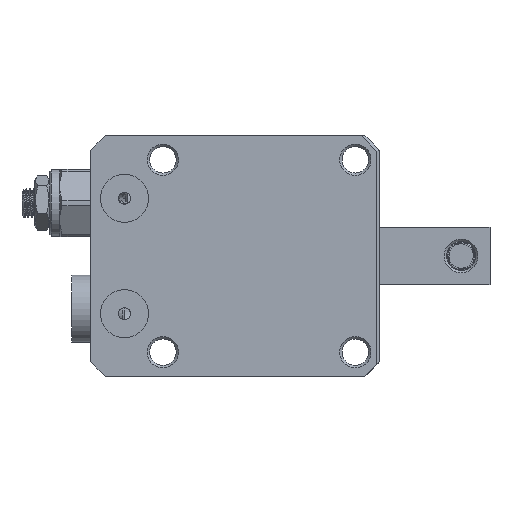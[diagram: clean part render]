
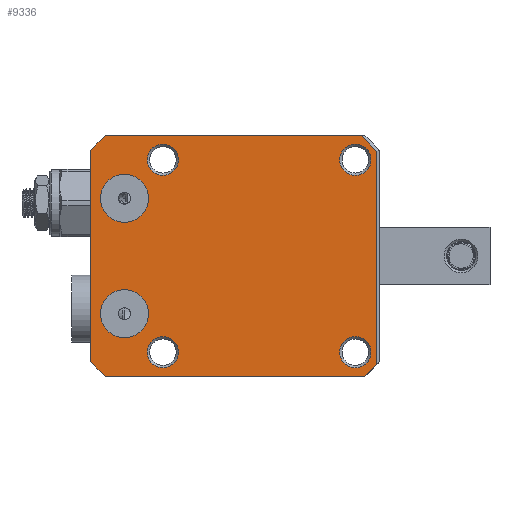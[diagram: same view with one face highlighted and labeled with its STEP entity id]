
A CAD part, front view. The second image highlights one B-rep face of the part: STEP entity #9336.
In plain terms, the highlighted planar face has unit normal (0, -1, 0).
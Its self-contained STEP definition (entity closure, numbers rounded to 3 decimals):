
#295=PLANE('',#10160);
#459=FACE_BOUND('',#1265,.T.);
#460=FACE_BOUND('',#1266,.T.);
#461=FACE_BOUND('',#1267,.T.);
#462=FACE_BOUND('',#1268,.T.);
#463=FACE_BOUND('',#1269,.T.);
#464=FACE_BOUND('',#1270,.T.);
#708=FACE_OUTER_BOUND('',#1264,.T.);
#1264=EDGE_LOOP('',(#6415,#6416,#6417,#6418,#6419,#6420,#6421,#6422));
#1265=EDGE_LOOP('',(#6423));
#1266=EDGE_LOOP('',(#6424));
#1267=EDGE_LOOP('',(#6425));
#1268=EDGE_LOOP('',(#6426));
#1269=EDGE_LOOP('',(#6427));
#1270=EDGE_LOOP('',(#6428));
#2074=LINE('',#14340,#2689);
#2094=LINE('',#14380,#2709);
#2095=LINE('',#14384,#2710);
#2096=LINE('',#14386,#2711);
#2097=LINE('',#14388,#2712);
#2098=LINE('',#14390,#2713);
#2099=LINE('',#14391,#2714);
#2100=LINE('',#14392,#2715);
#2689=VECTOR('',#11361,1000.);
#2709=VECTOR('',#11397,1000.);
#2710=VECTOR('',#11400,1000.);
#2711=VECTOR('',#11401,1000.);
#2712=VECTOR('',#11402,1000.);
#2713=VECTOR('',#11403,1000.);
#2714=VECTOR('',#11404,1000.);
#2715=VECTOR('',#11405,1000.);
#3276=CIRCLE('',#10084,5.);
#3278=CIRCLE('',#10087,5.);
#3281=CIRCLE('',#10091,3.25);
#3284=CIRCLE('',#10095,3.25);
#3287=CIRCLE('',#10099,3.25);
#3290=CIRCLE('',#10103,3.25);
#3836=VERTEX_POINT('',#14034);
#3838=VERTEX_POINT('',#14040);
#3841=VERTEX_POINT('',#14048);
#3844=VERTEX_POINT('',#14056);
#3847=VERTEX_POINT('',#14064);
#3850=VERTEX_POINT('',#14072);
#3895=VERTEX_POINT('',#14337);
#3896=VERTEX_POINT('',#14339);
#3908=VERTEX_POINT('',#14378);
#3909=VERTEX_POINT('',#14382);
#3910=VERTEX_POINT('',#14383);
#3911=VERTEX_POINT('',#14385);
#3912=VERTEX_POINT('',#14387);
#3913=VERTEX_POINT('',#14389);
#4786=EDGE_CURVE('',#3836,#3836,#3276,.T.);
#4789=EDGE_CURVE('',#3838,#3838,#3278,.T.);
#4793=EDGE_CURVE('',#3841,#3841,#3281,.T.);
#4797=EDGE_CURVE('',#3844,#3844,#3284,.T.);
#4801=EDGE_CURVE('',#3847,#3847,#3287,.T.);
#4805=EDGE_CURVE('',#3850,#3850,#3290,.T.);
#4869=EDGE_CURVE('',#3896,#3895,#2074,.T.);
#4890=EDGE_CURVE('',#3895,#3908,#2094,.T.);
#4891=EDGE_CURVE('',#3909,#3910,#2095,.T.);
#4892=EDGE_CURVE('',#3911,#3909,#2096,.T.);
#4893=EDGE_CURVE('',#3912,#3911,#2097,.T.);
#4894=EDGE_CURVE('',#3913,#3912,#2098,.T.);
#4895=EDGE_CURVE('',#3896,#3913,#2099,.T.);
#4896=EDGE_CURVE('',#3910,#3908,#2100,.T.);
#6415=ORIENTED_EDGE('',*,*,#4891,.F.);
#6416=ORIENTED_EDGE('',*,*,#4892,.F.);
#6417=ORIENTED_EDGE('',*,*,#4893,.F.);
#6418=ORIENTED_EDGE('',*,*,#4894,.F.);
#6419=ORIENTED_EDGE('',*,*,#4895,.F.);
#6420=ORIENTED_EDGE('',*,*,#4869,.T.);
#6421=ORIENTED_EDGE('',*,*,#4890,.T.);
#6422=ORIENTED_EDGE('',*,*,#4896,.F.);
#6423=ORIENTED_EDGE('',*,*,#4786,.F.);
#6424=ORIENTED_EDGE('',*,*,#4789,.F.);
#6425=ORIENTED_EDGE('',*,*,#4793,.F.);
#6426=ORIENTED_EDGE('',*,*,#4797,.F.);
#6427=ORIENTED_EDGE('',*,*,#4801,.F.);
#6428=ORIENTED_EDGE('',*,*,#4805,.F.);
#9336=ADVANCED_FACE('',(#708,#459,#460,#461,#462,#463,#464),#295,.F.);
#10084=AXIS2_PLACEMENT_3D('',#14036,#11194,#11195);
#10087=AXIS2_PLACEMENT_3D('',#14042,#11201,#11202);
#10091=AXIS2_PLACEMENT_3D('',#14050,#11210,#11211);
#10095=AXIS2_PLACEMENT_3D('',#14058,#11219,#11220);
#10099=AXIS2_PLACEMENT_3D('',#14066,#11228,#11229);
#10103=AXIS2_PLACEMENT_3D('',#14074,#11237,#11238);
#10160=AXIS2_PLACEMENT_3D('',#14381,#11398,#11399);
#11194=DIRECTION('center_axis',(0.,-1.,0.));
#11195=DIRECTION('ref_axis',(0.,0.,-1.));
#11201=DIRECTION('center_axis',(0.,-1.,0.));
#11202=DIRECTION('ref_axis',(0.,0.,-1.));
#11210=DIRECTION('center_axis',(0.,-1.,0.));
#11211=DIRECTION('ref_axis',(1.,0.,0.));
#11219=DIRECTION('center_axis',(0.,-1.,0.));
#11220=DIRECTION('ref_axis',(0.,0.,-1.));
#11228=DIRECTION('center_axis',(0.,-1.,0.));
#11229=DIRECTION('ref_axis',(0.,0.,
-1.));
#11237=DIRECTION('center_axis',(0.,-1.,0.));
#11238=DIRECTION('ref_axis',(1.,0.,0.));
#11361=DIRECTION('',(1.,0.,0.));
#11397=DIRECTION('',(0.707,0.,0.707));
#11398=DIRECTION('center_axis',(0.,1.,0.));
#11399=DIRECTION('ref_axis',(0.,0.,1.));
#11400=DIRECTION('',(0.707,0.,-0.707));
#11401=DIRECTION('',(1.,0.,0.));
#11402=DIRECTION('',(0.707,0.,0.707));
#11403=DIRECTION('',(0.,0.,1.));
#11404=DIRECTION('',(-0.707,0.,0.707));
#11405=DIRECTION('',(0.,0.,-1.));
#14034=CARTESIAN_POINT('',(403.833,54.859,-7.));
#14036=CARTESIAN_POINT('Origin',(403.833,54.859,-12.));
#14040=CARTESIAN_POINT('',(403.833,54.859,17.));
#14042=CARTESIAN_POINT('Origin',(403.833,54.859,12.));
#14048=CARTESIAN_POINT('',(408.583,54.859,-20.));
#14050=CARTESIAN_POINT('Origin',(411.833,54.859,-20.));
#14056=CARTESIAN_POINT('',(451.833,54.859,-16.75));
#14058=CARTESIAN_POINT('Origin',(451.833,54.859,-20.));
#14064=CARTESIAN_POINT('',(451.833,54.859,23.25));
#14066=CARTESIAN_POINT('Origin',(451.833,54.859,20.));
#14072=CARTESIAN_POINT('',(408.583,54.859,20.));
#14074=CARTESIAN_POINT('Origin',(411.833,54.859,20.));
#14337=CARTESIAN_POINT('',(453.833,54.859,-25.));
#14339=CARTESIAN_POINT('',(399.833,54.859,-25.));
#14340=CARTESIAN_POINT('',(399.833,54.859,-25.));
#14378=CARTESIAN_POINT('',(456.333,54.859,-22.5));
#14380=CARTESIAN_POINT('',(453.833,54.859,-25.));
#14381=CARTESIAN_POINT('Origin',(456.333,54.859,-25.));
#14382=CARTESIAN_POINT('',(453.126,54.859,25.));
#14383=CARTESIAN_POINT('',(456.333,54.859,21.793));
#14384=CARTESIAN_POINT('',(453.126,54.859,25.));
#14385=CARTESIAN_POINT('',(399.833,54.859,25.));
#14386=CARTESIAN_POINT('',(456.333,54.859,25.));
#14387=CARTESIAN_POINT('',(396.833,54.859,22.));
#14388=CARTESIAN_POINT('',(396.833,54.859,22.));
#14389=CARTESIAN_POINT('',(396.833,54.859,-22.));
#14390=CARTESIAN_POINT('',(396.833,54.859,-25.));
#14391=CARTESIAN_POINT('',(399.833,54.859,-25.));
#14392=CARTESIAN_POINT('',(456.333,54.859,-25.));
